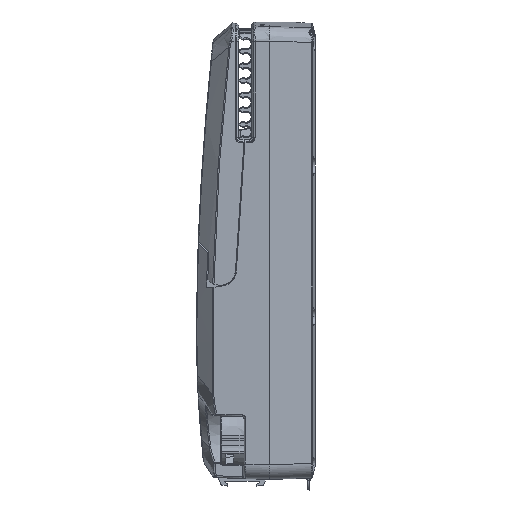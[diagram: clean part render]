
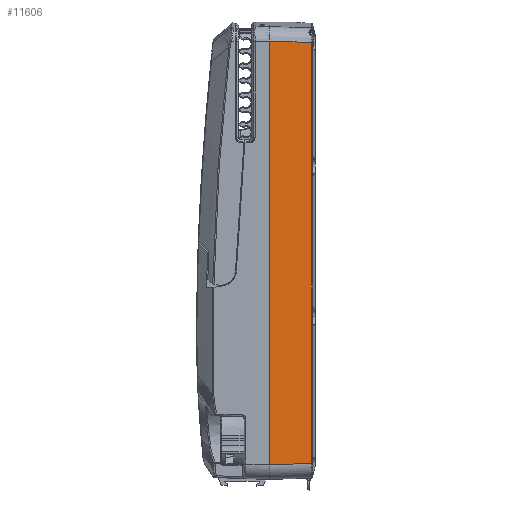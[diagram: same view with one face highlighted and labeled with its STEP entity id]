
A CAD part, left-side view. The second image highlights one B-rep face of the part: STEP entity #11606.
In plain terms, the highlighted planar face has unit normal (-0.999, -0.035, 0).
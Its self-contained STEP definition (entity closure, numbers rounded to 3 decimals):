
#3296 = EDGE_CURVE ( 'NONE', #24902, #31123, #70845, .T. ) ;
#5326 = VECTOR ( 'NONE', #115761, 1000. ) ;
#11606 = ADVANCED_FACE ( 'NONE', ( #86435 ), #14872, .T. ) ;
#12047 = AXIS2_PLACEMENT_3D ( 'NONE', #25974, #41840, #104071 ) ;
#14204 = VECTOR ( 'NONE', #78750, 1000. ) ;
#14408 = ORIENTED_EDGE ( 'NONE', *, *, #3296, .T. ) ;
#14872 = PLANE ( 'NONE',  #12047 ) ;
#16997 = CARTESIAN_POINT ( 'NONE',  ( -45., -18.9, 87.326 ) ) ;
#23254 = ORIENTED_EDGE ( 'NONE', *, *, #40119, .T. ) ;
#24902 = VERTEX_POINT ( 'NONE', #44360 ) ;
#25974 = CARTESIAN_POINT ( 'NONE',  ( -45., -18.9, -152.48 ) ) ;
#30203 = EDGE_LOOP ( 'NONE', ( #91719, #31406, #14408, #23254 ) ) ;
#30885 = LINE ( 'NONE', #65546, #105588 ) ;
#31123 = VERTEX_POINT ( 'NONE', #16997 ) ;
#31406 = ORIENTED_EDGE ( 'NONE', *, *, #49354, .F. ) ;
#34148 = LINE ( 'NONE', #68793, #14204 ) ;
#36688 = CARTESIAN_POINT ( 'NONE',  ( -44.733, -26.558, 87.086 ) ) ;
#37807 = CARTESIAN_POINT ( 'NONE',  ( -45., -18.9, -144.485 ) ) ;
#37990 = VERTEX_POINT ( 'NONE', #37807 ) ;
#40119 = EDGE_CURVE ( 'NONE', #31123, #37990, #34148, .T. ) ;
#41840 = DIRECTION ( 'NONE',  ( -0.999, -0.035, 0. ) ) ;
#44360 = CARTESIAN_POINT ( 'NONE',  ( -44.198, -41.873, 86.604 ) ) ;
#45481 = CARTESIAN_POINT ( 'NONE',  ( -44.465, -34.215, 86.845 ) ) ;
#49354 = EDGE_CURVE ( 'NONE', #24902, #55753, #108063, .T. ) ;
#55753 = VERTEX_POINT ( 'NONE', #103130 ) ;
#59859 = EDGE_CURVE ( 'NONE', #55753, #37990, #30885, .T. ) ;
#63431 = CARTESIAN_POINT ( 'NONE',  ( -44.198, -41.873, -152.48 ) ) ;
#65546 = CARTESIAN_POINT ( 'NONE',  ( -45.01, -18.621, -144.495 ) ) ;
#68793 = CARTESIAN_POINT ( 'NONE',  ( -45., -18.9, -152.48 ) ) ;
#70845 = B_SPLINE_CURVE_WITH_KNOTS ( 'NONE', 3,
 ( #90102, #45481, #36688, #108334 ),
 .UNSPECIFIED., .F., .F.,
 ( 4, 4 ),
 ( 0., 1. ),
 .UNSPECIFIED. ) ;
#78750 = DIRECTION ( 'NONE',  ( 0., 0., -1. ) ) ;
#84313 = DIRECTION ( 'NONE',  ( -0.035, 0.999, -0.035 ) ) ;
#86435 = FACE_OUTER_BOUND ( 'NONE', #30203, .T. ) ;
#90102 = CARTESIAN_POINT ( 'NONE',  ( -44.198, -41.873, 86.604 ) ) ;
#91719 = ORIENTED_EDGE ( 'NONE', *, *, #59859, .F. ) ;
#103130 = CARTESIAN_POINT ( 'NONE',  ( -44.198, -41.873, -143.683 ) ) ;
#104071 = DIRECTION ( 'NONE',  ( 0.035, -0.999, 0. ) ) ;
#105588 = VECTOR ( 'NONE', #84313, 1000. ) ;
#108063 = LINE ( 'NONE', #63431, #5326 ) ;
#108334 = CARTESIAN_POINT ( 'NONE',  ( -45., -18.9, 87.326 ) ) ;
#115761 = DIRECTION ( 'NONE',  ( 0., 0., -1. ) ) ;
